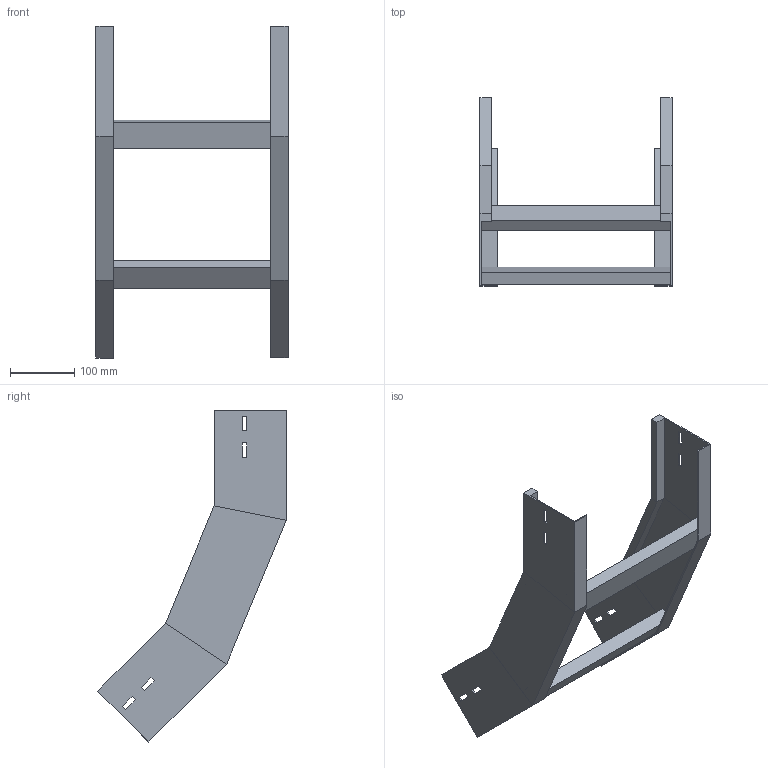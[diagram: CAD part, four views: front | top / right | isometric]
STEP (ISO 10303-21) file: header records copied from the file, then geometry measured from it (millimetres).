
FILE_DESCRIPTION (( 'STEP AP214' ), '1' );
FILE_NAME ('A2X31B5J300XX.step', '2025-03-20T10:06:58', ( '' ), ( '' ), 'SwSTEP 2.0', 'SolidWorks 2023', '' );
FILE_SCHEMA (( 'AUTOMOTIVE_DESIGN' ));
Length unit declared in the file: millimetre
Products named in the file (3): A2X31B5J300XX; TRAVERSINO_300; LONGH.SALITA_45°_H112.5_R500
Assembly tree (4 placements, depth 2):
  A2X31B5J300XX
    LONGH.SALITA_45°_H112.5_R500  x2
    TRAVERSINO_300  x2
Bounding box: 300 x 294.27 x 518.39 mm (x, y, z)
Volume: 972835.9 mm3; surface area: 414504 mm2
Topology: 4 solids, 4 shells, 96 faces, 232 edges, 144 vertices
Faces by surface type: plane 96
Entity records: 1472 total; most frequent: CARTESIAN_POINT 243, ORIENTED_EDGE 232, DIRECTION 226, EDGE_CURVE 116, VECTOR 116, LINE 116, VERTEX_POINT 72, EDGE_LOOP 56
